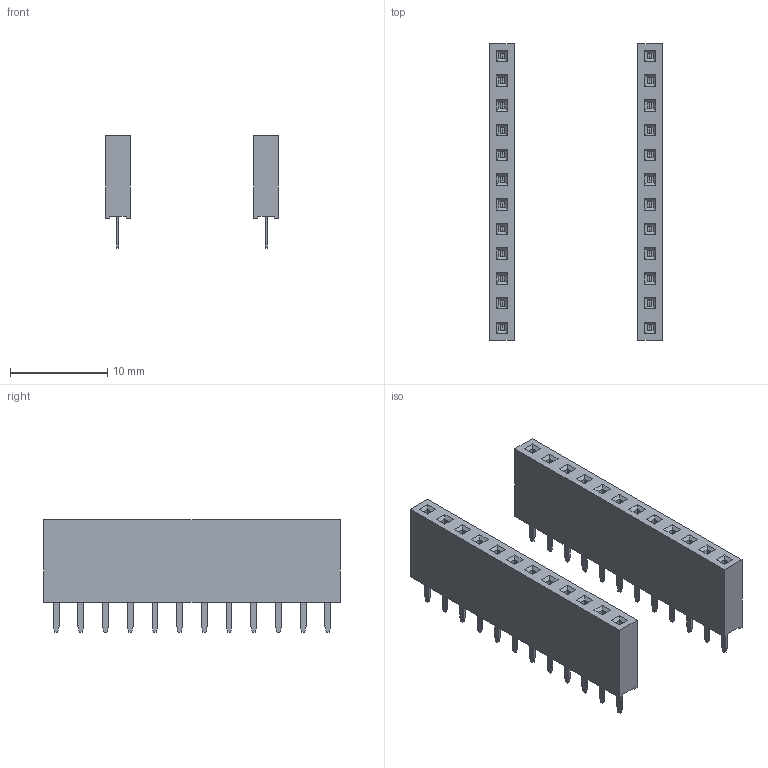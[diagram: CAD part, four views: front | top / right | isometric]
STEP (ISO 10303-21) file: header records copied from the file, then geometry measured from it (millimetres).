
FILE_DESCRIPTION(('FreeCAD Model'),'2;1');
FILE_NAME('Open CASCADE Shape Model','2026-09-12T16:10:07',('FreeCAD'),( 'FreeCAD'),'Open CASCADE STEP processor 7.9','FreeCAD','Unknown');
FILE_SCHEMA(('AUTOMOTIVE_DESIGN { 1 0 10303 214 1 1 1 1 }'));
Length unit declared in the file: millimetre
Products named in the file (1): Open CASCADE STEP translator 7.9 1
Bounding box: 17.78 x 30.48 x 11.6 mm (x, y, z)
Volume: 1239.4 mm3; surface area: 2043.6 mm2
Topology: 2 solids, 2 shells, 644 faces, 1680 edges, 1088 vertices
Faces by surface type: plane 644
Entity records: 19204 total; most frequent: CARTESIAN_POINT 3413, ORIENTED_EDGE 3360, DIRECTION 2970, EDGE_CURVE 1680, LINE 1680, VECTOR 1680, VERTEX_POINT 1088, FACE_BOUND 692
